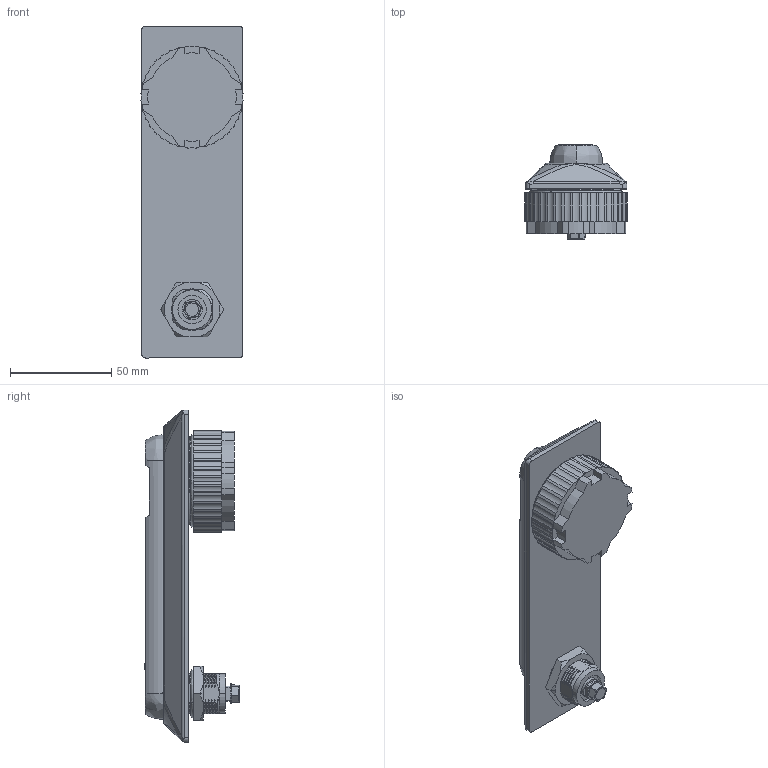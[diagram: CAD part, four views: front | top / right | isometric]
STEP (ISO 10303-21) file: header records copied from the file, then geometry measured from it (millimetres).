
FILE_DESCRIPTION (( 'STEP AP214' ), '1' );
FILE_NAME ('1B.RS200-T.001.STEP', '2011-10-03T10:22:23', ( 'Techniczny' ), ( 'RST ROZTOCZE' ), 'SwSTEP 2.0', 'SolidWorks 2010', '' );
FILE_SCHEMA (( 'AUTOMOTIVE_DESIGN' ));
Length unit declared in the file: millimetre
Products named in the file (12): 1C.NZN.001.01; 1B.RS400.002.02.02; M6x8; O-RING12X2; NAKRETKA M22; O-RING 22x2; O-RING 45 x 2; 1B.RS200.001.01; 1B.RS100-T.001.01; 1B.RS200-T.001; 1B.RS100.001.04; 1B.RS100.001.03
Assembly tree (11 placements, depth 2):
  1B.RS200-T.001
    NAKRETKA M22
    O-RING12X2
    1B.RS400.002.02.02
    1B.RS200.001.01
    M6x8
    O-RING 22x2
    1B.RS100.001.04
    O-RING 45 x 2
    1B.RS100.001.03
    1C.NZN.001.01
    1B.RS100-T.001.01
Bounding box: 50.41 x 46.81 x 164 mm (x, y, z)
Volume: 103658.3 mm3; surface area: 57059.2 mm2
Topology: 11 solids, 11 shells, 596 faces, 1623 edges, 1034 vertices
Faces by surface type: cylinder 247, bspline 156, plane 148, cone 34, sphere 6, torus 5
Entity records: 29495 total; most frequent: CARTESIAN_POINT 15495, ORIENTED_EDGE 3196, DIRECTION 2408, EDGE_CURVE 1598, VERTEX_POINT 1033, AXIS2_PLACEMENT_3D 936, EDGE_LOOP 623, ADVANCED_FACE 596
